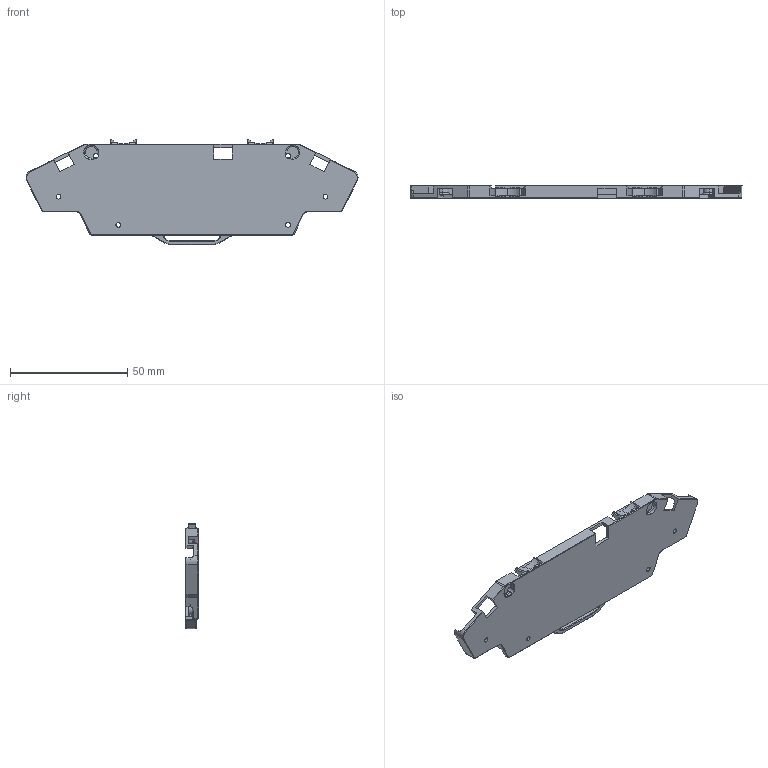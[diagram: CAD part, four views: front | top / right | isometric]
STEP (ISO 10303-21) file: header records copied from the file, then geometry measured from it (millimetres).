
FILE_DESCRIPTION (( 'STEP AP203' ), '1' );
FILE_NAME ('BR01_POWER_HUB_COVER_BOT_Rev1.STEP');
FILE_SCHEMA (( 'CONFIG_CONTROL_DESIGN' ));
Length unit declared in the file: millimetre
Products named in the file (1): BR01_POWER_HUB_COVER_BOT_Rev1
Bounding box: 141.76 x 5.2 x 44.95 mm (x, y, z)
Volume: 8733 mm3; surface area: 12453.2 mm2
Topology: 1 solids, 1 shells, 351 faces, 981 edges, 618 vertices
Faces by surface type: plane 168, cylinder 117, cone 33, torus 21, bspline 8, sphere 4
Entity records: 11645 total; most frequent: CARTESIAN_POINT 2500, ORIENTED_EDGE 1946, DIRECTION 1904, EDGE_CURVE 973, AXIS2_PLACEMENT_3D 654, VERTEX_POINT 618, LINE 596, VECTOR 596
